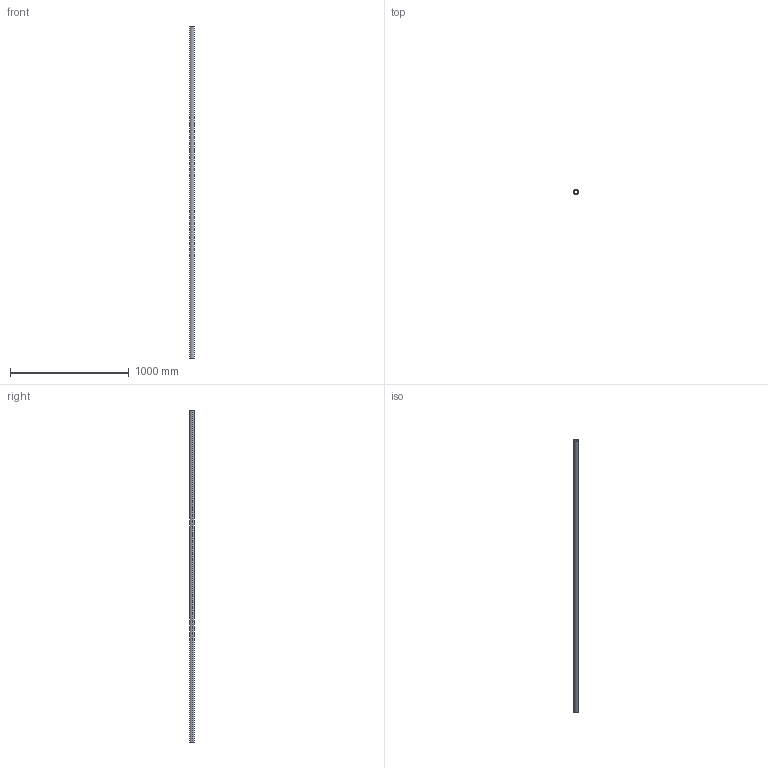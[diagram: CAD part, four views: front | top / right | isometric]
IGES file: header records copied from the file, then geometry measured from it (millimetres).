
Start section: SolidWorks IGES file using analytic representation for surfaces
Global section: file name: C:\Users\IanO\Desktop\L1771_v2\L1771.40_v2\L1771.40_v2_20230705_IGES\L1771.40-2800.igs; native system: SolidWorks 2019; preprocessor: SolidWorks 2019; author: IanO; date: 230705.161458; units: millimetre
Bounding box: 40 x 40 x 2800 mm (x, y, z)
Surface area: 599441 mm2 (no closed solid volume)
Topology: 0 solids, 0 shells, 6 faces, 272 edges, 272 vertices
Faces by surface type: revolution 4, bspline 2
